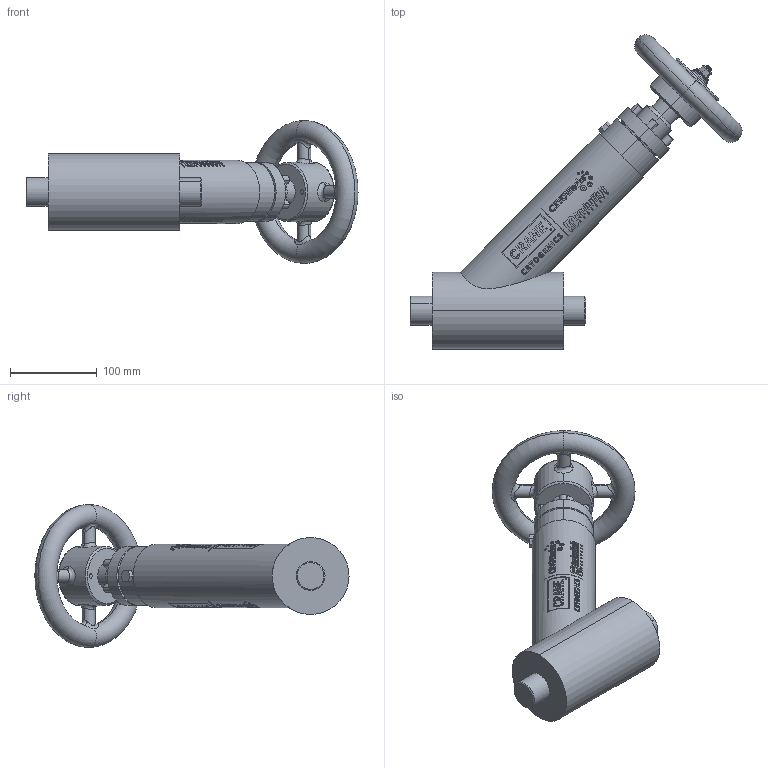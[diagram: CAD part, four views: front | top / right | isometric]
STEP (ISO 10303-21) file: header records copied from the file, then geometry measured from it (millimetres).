
FILE_DESCRIPTION (( 'STEP AP203' ), '1' );
FILE_NAME ('1IN Y-PATTERN MANUAL CRANE BELLOWS SEAL VALVE.step', '2025-12-17T20:06:29', ( '' ), ( '' ), 'SwSTEP 2.0', 'SolidWorks 2023', '' );
FILE_SCHEMA (( 'CONFIG_CONTROL_DESIGN' ));
Length unit declared in the file: inch
Products named in the file (1): 1IN Y-PATTERN MANUAL CRANE BELLOWS SEAL VALVE
Bounding box: 383.77 x 363.14 x 165.1 mm (x, y, z)
Volume: 2420150 mm3; surface area: 191961.8 mm2
Topology: 1 solids, 1 shells, 1343 faces, 3450 edges, 2294 vertices
Faces by surface type: plane 777, cylinder 385, bspline 143, cone 28, torus 10
Full cylindrical faces by diameter (mm): 0.896 x2, 0.982 x2, 1.067 x2, 1.223 x2, 1.381 x2, 1.78 x2, 1.842 x2, 2.045 x2, 2.179 x2, 2.284 x2, 2.405 x2, 2.744 x2, 3.706 x2, 4.578 x2, 5.539 x2, 6.45 x2, 73.025 x1
Entity records: 84000 total; most frequent: CARTESIAN_POINT 54380, ORIENTED_EDGE 6802, DIRECTION 5067, EDGE_CURVE 3401, VERTEX_POINT 2294, AXIS2_PLACEMENT_3D 1709, VECTOR 1649, LINE 1649
